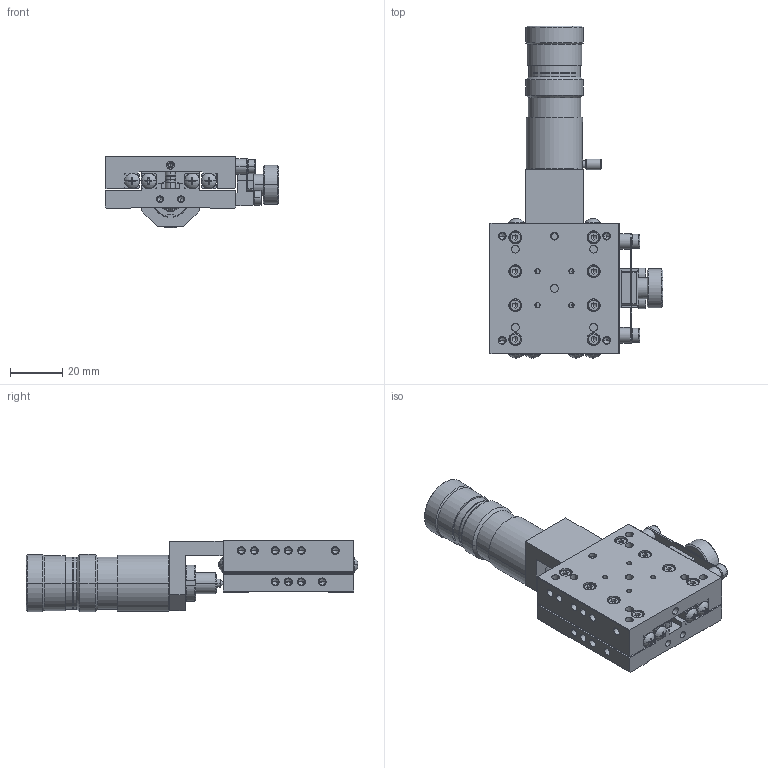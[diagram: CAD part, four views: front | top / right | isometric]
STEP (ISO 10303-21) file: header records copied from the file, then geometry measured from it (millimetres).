
FILE_DESCRIPTION (( 'STEP AP214' ), '1' );
FILE_NAME ('XM05A-C3Z-R-CL.STEP', '2007-08-07T00:14:24', ( ' ' ), ( ' ' ), 'SwSTEP 2.0', 'SolidWorks 2006052', '' );
FILE_SCHEMA (( 'AUTOMOTIVE_DESIGN' ));
Length unit declared in the file: millimetre
Products named in the file (5): 001010-1023(3D)-Part-1-3; 001010-1011(3D)-7; 001010-1023(3D)-Part-2-3; XM05A-C3Z-R-CL; 001010-1023(3D)-3
Assembly tree (4 placements, depth 3):
  XM05A-C3Z-R-CL
    001010-1011(3D)-7
    001010-1023(3D)-3
      001010-1023(3D)-Part-2-3
      001010-1023(3D)-Part-1-3
Bounding box: 66.5 x 127.18 x 27.5 mm (x, y, z)
Volume: 68112.6 mm3; surface area: 36714.2 mm2
Topology: 3 solids, 45 shells, 1635 faces, 3763 edges, 2236 vertices
Faces by surface type: plane 740, cylinder 500, cone 290, torus 88, sphere 17
Entity records: 46132 total; most frequent: CARTESIAN_POINT 8445, DIRECTION 8439, ORIENTED_EDGE 7322, EDGE_CURVE 3661, AXIS2_PLACEMENT_3D 3269, VERTEX_POINT 2235, VECTOR 1901, LINE 1901
